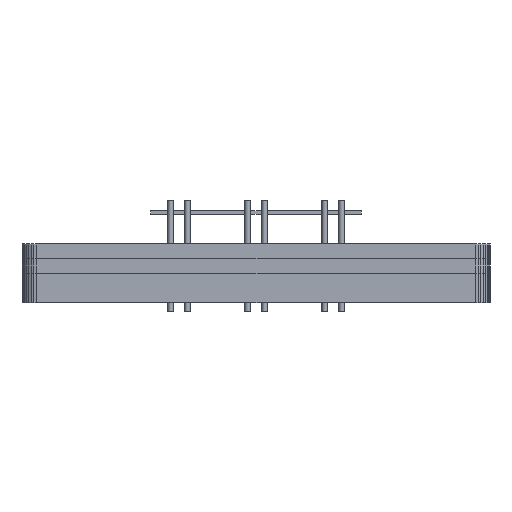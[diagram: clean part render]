
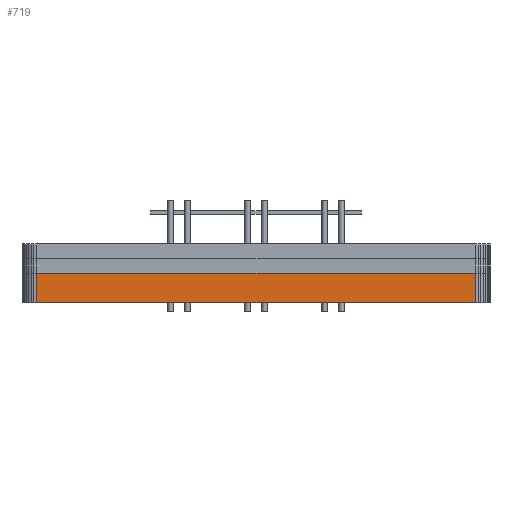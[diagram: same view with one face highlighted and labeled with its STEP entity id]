
A CAD part, left-side view. The second image highlights one B-rep face of the part: STEP entity #719.
In plain terms, the highlighted planar face has unit normal (-1, 0, 0).
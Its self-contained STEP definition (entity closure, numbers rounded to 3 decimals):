
#198 = PLANE('',#199);
#199 = AXIS2_PLACEMENT_3D('',#200,#201,#202);
#200 = CARTESIAN_POINT('',(0.,0.,
    -3.145));
#201 = DIRECTION('',(-0.,-0.,-1.));
#202 = DIRECTION('',(-1.,0.,0.));
#252 = PLANE('',#253);
#253 = AXIS2_PLACEMENT_3D('',#254,#255,#256);
#254 = CARTESIAN_POINT('',(0.,0.,
    -4.745));
#255 = DIRECTION('',(-0.,-0.,-1.));
#256 = DIRECTION('',(-1.,0.,0.));
#611 = PLANE('',#612);
#612 = AXIS2_PLACEMENT_3D('',#613,#614,#615);
#613 = CARTESIAN_POINT('',(-19.985,-12.106,-4.745));
#614 = DIRECTION('',(-0.995,-0.098,0.));
#615 = DIRECTION('',(-0.098,0.995,0.));
#649 = VERTEX_POINT('',#650);
#650 = CARTESIAN_POINT('',(-20.,-11.95,-3.145));
#671 = EDGE_CURVE('',#672,#649,#674,.T.);
#672 = VERTEX_POINT('',#673);
#673 = CARTESIAN_POINT('',(-20.,-11.95,-4.745));
#674 = SURFACE_CURVE('',#675,(#679,#686),.PCURVE_S1.);
#675 = LINE('',#676,#677);
#676 = CARTESIAN_POINT('',(-20.,-11.95,-4.745));
#677 = VECTOR('',#678,1.);
#678 = DIRECTION('',(0.,0.,1.));
#679 = PCURVE('',#611,#680);
#680 = DEFINITIONAL_REPRESENTATION('',(#681),#685);
#681 = LINE('',#682,#683);
#682 = CARTESIAN_POINT('',(0.157,0.));
#683 = VECTOR('',#684,1.);
#684 = DIRECTION('',(0.,-1.));
#685 = ( GEOMETRIC_REPRESENTATION_CONTEXT(2) 
PARAMETRIC_REPRESENTATION_CONTEXT() REPRESENTATION_CONTEXT('2D SPACE',''
  ) );
#686 = PCURVE('',#687,#692);
#687 = PLANE('',#688);
#688 = AXIS2_PLACEMENT_3D('',#689,#690,#691);
#689 = CARTESIAN_POINT('',(-20.,-11.95,-4.745));
#690 = DIRECTION('',(-1.,0.,0.));
#691 = DIRECTION('',(0.,1.,0.));
#692 = DEFINITIONAL_REPRESENTATION('',(#693),#697);
#693 = LINE('',#694,#695);
#694 = CARTESIAN_POINT('',(0.,0.));
#695 = VECTOR('',#696,1.);
#696 = DIRECTION('',(0.,-1.));
#697 = ( GEOMETRIC_REPRESENTATION_CONTEXT(2) 
PARAMETRIC_REPRESENTATION_CONTEXT() REPRESENTATION_CONTEXT('2D SPACE',''
  ) );
#719 = ADVANCED_FACE('',(#720),#687,.T.);
#720 = FACE_BOUND('',#721,.T.);
#721 = EDGE_LOOP('',(#722,#723,#746,#774));
#722 = ORIENTED_EDGE('',*,*,#671,.T.);
#723 = ORIENTED_EDGE('',*,*,#724,.T.);
#724 = EDGE_CURVE('',#649,#725,#727,.T.);
#725 = VERTEX_POINT('',#726);
#726 = CARTESIAN_POINT('',(-20.,11.95,-3.145));
#727 = SURFACE_CURVE('',#728,(#732,#739),.PCURVE_S1.);
#728 = LINE('',#729,#730);
#729 = CARTESIAN_POINT('',(-20.,-11.95,-3.145));
#730 = VECTOR('',#731,1.);
#731 = DIRECTION('',(0.,1.,0.));
#732 = PCURVE('',#687,#733);
#733 = DEFINITIONAL_REPRESENTATION('',(#734),#738);
#734 = LINE('',#735,#736);
#735 = CARTESIAN_POINT('',(0.,-1.6));
#736 = VECTOR('',#737,1.);
#737 = DIRECTION('',(1.,0.));
#738 = ( GEOMETRIC_REPRESENTATION_CONTEXT(2) 
PARAMETRIC_REPRESENTATION_CONTEXT() REPRESENTATION_CONTEXT('2D SPACE',''
  ) );
#739 = PCURVE('',#198,#740);
#740 = DEFINITIONAL_REPRESENTATION('',(#741),#745);
#741 = LINE('',#742,#743);
#742 = CARTESIAN_POINT('',(20.,-11.95));
#743 = VECTOR('',#744,1.);
#744 = DIRECTION('',(0.,1.));
#745 = ( GEOMETRIC_REPRESENTATION_CONTEXT(2) 
PARAMETRIC_REPRESENTATION_CONTEXT() REPRESENTATION_CONTEXT('2D SPACE',''
  ) );
#746 = ORIENTED_EDGE('',*,*,#747,.F.);
#747 = EDGE_CURVE('',#748,#725,#750,.T.);
#748 = VERTEX_POINT('',#749);
#749 = CARTESIAN_POINT('',(-20.,11.95,-4.745));
#750 = SURFACE_CURVE('',#751,(#755,#762),.PCURVE_S1.);
#751 = LINE('',#752,#753);
#752 = CARTESIAN_POINT('',(-20.,11.95,-4.745));
#753 = VECTOR('',#754,1.);
#754 = DIRECTION('',(0.,0.,1.));
#755 = PCURVE('',#687,#756);
#756 = DEFINITIONAL_REPRESENTATION('',(#757),#761);
#757 = LINE('',#758,#759);
#758 = CARTESIAN_POINT('',(23.9,0.));
#759 = VECTOR('',#760,1.);
#760 = DIRECTION('',(0.,-1.));
#761 = ( GEOMETRIC_REPRESENTATION_CONTEXT(2) 
PARAMETRIC_REPRESENTATION_CONTEXT() REPRESENTATION_CONTEXT('2D SPACE',''
  ) );
#762 = PCURVE('',#763,#768);
#763 = PLANE('',#764);
#764 = AXIS2_PLACEMENT_3D('',#765,#766,#767);
#765 = CARTESIAN_POINT('',(-20.,11.95,-4.745));
#766 = DIRECTION('',(-0.995,0.098,0.));
#767 = DIRECTION('',(0.098,0.995,0.));
#768 = DEFINITIONAL_REPRESENTATION('',(#769),#773);
#769 = LINE('',#770,#771);
#770 = CARTESIAN_POINT('',(0.,0.));
#771 = VECTOR('',#772,1.);
#772 = DIRECTION('',(0.,-1.));
#773 = ( GEOMETRIC_REPRESENTATION_CONTEXT(2) 
PARAMETRIC_REPRESENTATION_CONTEXT() REPRESENTATION_CONTEXT('2D SPACE',''
  ) );
#774 = ORIENTED_EDGE('',*,*,#775,.F.);
#775 = EDGE_CURVE('',#672,#748,#776,.T.);
#776 = SURFACE_CURVE('',#777,(#781,#788),.PCURVE_S1.);
#777 = LINE('',#778,#779);
#778 = CARTESIAN_POINT('',(-20.,-11.95,-4.745));
#779 = VECTOR('',#780,1.);
#780 = DIRECTION('',(0.,1.,0.));
#781 = PCURVE('',#687,#782);
#782 = DEFINITIONAL_REPRESENTATION('',(#783),#787);
#783 = LINE('',#784,#785);
#784 = CARTESIAN_POINT('',(0.,0.));
#785 = VECTOR('',#786,1.);
#786 = DIRECTION('',(1.,0.));
#787 = ( GEOMETRIC_REPRESENTATION_CONTEXT(2) 
PARAMETRIC_REPRESENTATION_CONTEXT() REPRESENTATION_CONTEXT('2D SPACE',''
  ) );
#788 = PCURVE('',#252,#789);
#789 = DEFINITIONAL_REPRESENTATION('',(#790),#794);
#790 = LINE('',#791,#792);
#791 = CARTESIAN_POINT('',(20.,-11.95));
#792 = VECTOR('',#793,1.);
#793 = DIRECTION('',(0.,1.));
#794 = ( GEOMETRIC_REPRESENTATION_CONTEXT(2) 
PARAMETRIC_REPRESENTATION_CONTEXT() REPRESENTATION_CONTEXT('2D SPACE',''
  ) );
